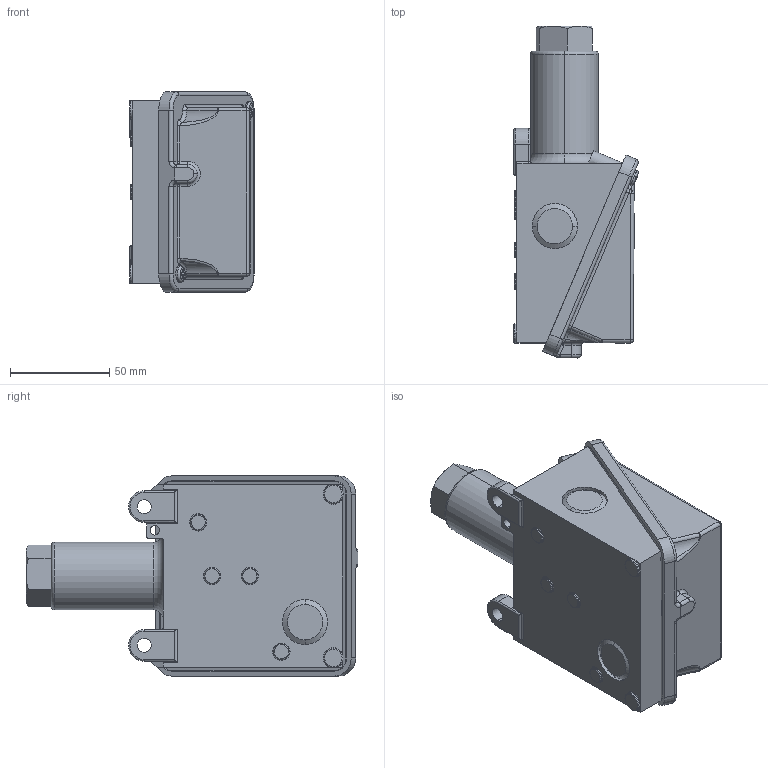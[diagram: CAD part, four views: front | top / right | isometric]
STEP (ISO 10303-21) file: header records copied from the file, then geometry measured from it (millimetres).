
FILE_DESCRIPTION (( 'STEP AP214' ), '1' );
FILE_NAME ('H100-701_706_V1.STEP', '2025-02-21T20:19:26', ( '' ), ( '' ), 'SwSTEP 2.0', 'SolidWorks 2023', '' );
FILE_SCHEMA (( 'AUTOMOTIVE_DESIGN' ));
Length unit declared in the file: inch
Products named in the file (1): H100-701_706_V1
Bounding box: 62.62 x 167.16 x 100.84 mm (x, y, z)
Volume: 191488.7 mm3; surface area: 114683.9 mm2
Topology: 7 solids, 7 shells, 831 faces, 1959 edges, 1152 vertices
Faces by surface type: cylinder 350, plane 243, torus 109, cone 57, bspline 36, sphere 36
Entity records: 25046 total; most frequent: CARTESIAN_POINT 5881, DIRECTION 4273, ORIENTED_EDGE 3830, EDGE_CURVE 1915, AXIS2_PLACEMENT_3D 1698, VERTEX_POINT 1152, EDGE_LOOP 909, CIRCLE 902
